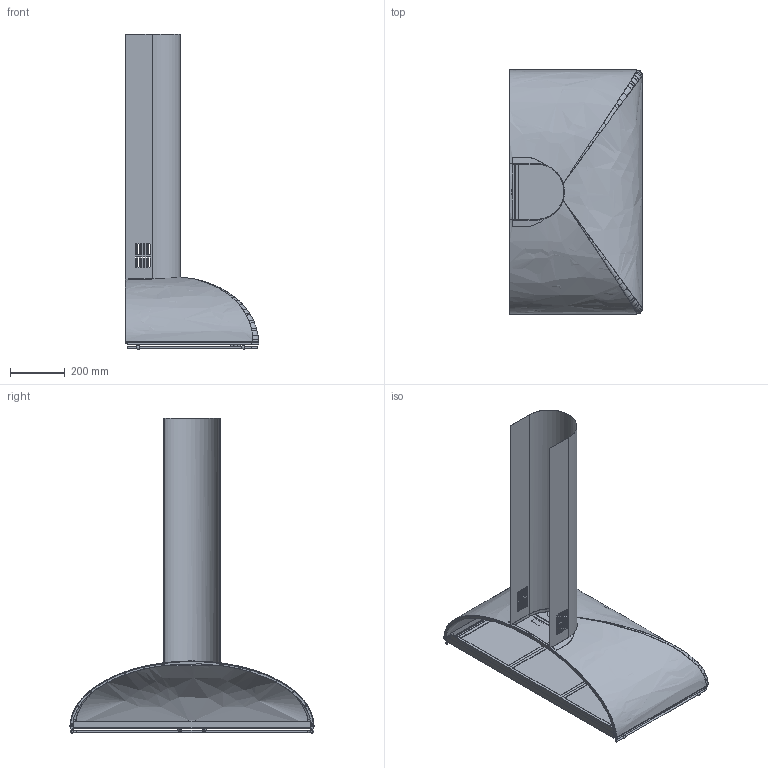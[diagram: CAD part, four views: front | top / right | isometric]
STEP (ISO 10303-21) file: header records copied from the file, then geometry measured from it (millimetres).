
FILE_DESCRIPTION((''),'1');
FILE_NAME('C:/Users/linop/Desktop/KA1VAE.stp','2018-05-08T15:30:25',(''),(''),'Spatial Interop R20 SP1','Kubotek KeyCreator V9.0.3 (16864)',' ');
FILE_SCHEMA(('CONFIG_CONTROL_DESIGN'));
Length unit declared in the file: millimetre
Products named in the file (19): 1; 2; 3; 4; 5; 6; 7; 8; 9; 10; 11; 12; 13; 14; 15; 16; 17; 18; 19
Bounding box: 485.8 x 888.9 x 1147.9 mm (x, y, z)
Volume: 2749817.3 mm3; surface area: 3356291.1 mm2
Topology: 19 solids, 19 shells, 638 faces, 1840 edges, 1286 vertices
Faces by surface type: plane 296, cylinder 176, bspline 144, sphere 10, torus 10, cone 2
Full cylindrical faces by diameter (mm): 2 x2, 3 x24, 3.5 x4, 4 x4, 5 x4, 8 x7, 8.2 x4, 9 x2, 12 x2, 17 x2, 19 x2, 30 x2, 40 x2, 43 x4, 44 x4, 65 x2
Entity records: 27575 total; most frequent: CARTESIAN_POINT 11903, ORIENTED_EDGE 3420, DIRECTION 2261, EDGE_CURVE 1710, VERTEX_POINT 1250, EDGE_LOOP 876, AXIS2_PLACEMENT_3D 792, B_SPLINE_CURVE_WITH_KNOTS 740
